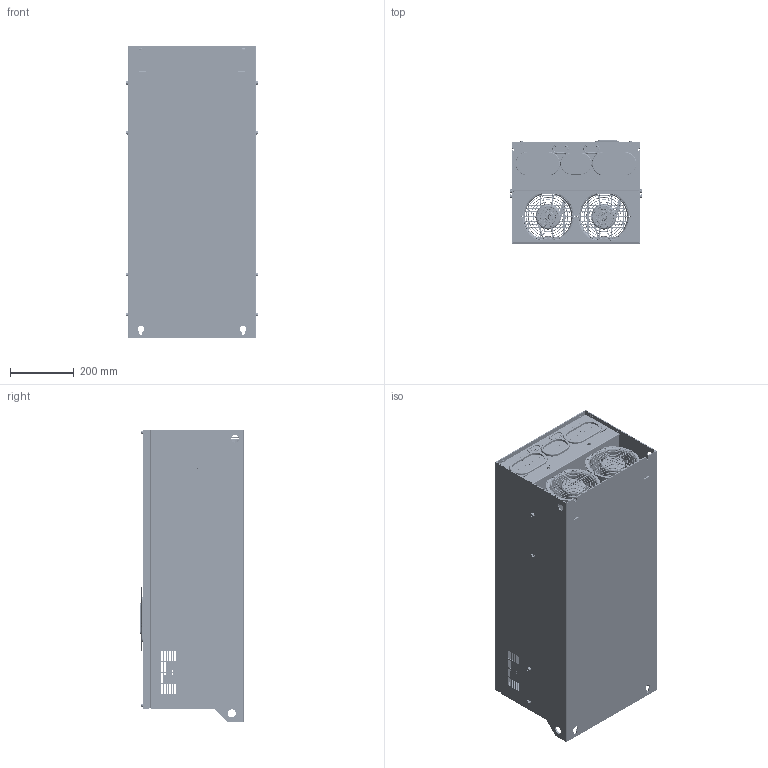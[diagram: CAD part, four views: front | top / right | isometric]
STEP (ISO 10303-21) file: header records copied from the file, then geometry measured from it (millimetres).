
FILE_DESCRIPTION((''),'2;1');
FILE_NAME('000_MVT164ZG-520_ASM','2021-12-13T',('h2718'),(''),'CREO PARAMETRIC BY PTC INC, 2015290','CREO PARAMETRIC BY PTC INC, 2015290','');
FILE_SCHEMA(('AP203_CONFIGURATION_CONTROLLED_3D_DESIGN_OF_MECHANICAL_PARTS_AND_ASSEMBLIES_MIM_LF { 1 0 10303 403 2 1 2 }'));
Products named in the file (26): 20110093-ZP_ASM_5_SW0001; SIT2013AG57; 20310585-LJ_3; 20310583-LJ_2; 20190038-ZP_ASM_4_ASM; 23010022_1; 23030013_2; QJ-ZP_ASM_2_ASM; GBT9074_17-88_M10X30_GB_1; GB97_1-2002_12_GB_A_3; GB93-87_12_GB_3; GB6170-2000_M12_GB1_A_8_2; 21030045_2; 21030044_3; GB9074_13-88_M5X12_GBXNHJ_2; GB9074_13-88_M6X16_GB_1; 20430041-LJ_1; FL-ZP_ASM_4_ASM; 520-KZB-20211209; 520-AJZJ-02-20211209; 20212503_S; 20441163; 001-520-ZUJIAN_ASM; DZ-9_SW0001; 20350021-ZP_ASM_2_SW0001; 000_MVT164ZG-520_ASM
Assembly tree (66 placements, depth 3):
  000_MVT164ZG-520_ASM
    20190038-ZP_ASM_4_ASM
      20110093-ZP_ASM_5_SW0001
      SIT2013AG57
      20310585-LJ_3
      20310583-LJ_2
    QJ-ZP_ASM_2_ASM
      23010022_1  x2
      23030013_2  x2
    FL-ZP_ASM_4_ASM
      GBT9074_17-88_M10X30_GB_1  x2
      GB97_1-2002_12_GB_A_3  x8
      GB93-87_12_GB_3  x8
      GB6170-2000_M12_GB1_A_8_2  x8
      21030045_2  x2
      21030044_3  x4
      GB9074_13-88_M5X12_GBXNHJ_2  x4
      GB9074_13-88_M6X16_GB_1  x10
      20430041-LJ_1  x2
    001-520-ZUJIAN_ASM
      520-KZB-20211209
      520-AJZJ-02-20211209
      20212503_S
      20441163
    DZ-9_SW0001
    20350021-ZP_ASM_2_SW0001
Bounding box: 414.4 x 322.18 x 915.06 mm (x, y, z)
Volume: 4291513.7 mm3; surface area: 4353337.1 mm2
Topology: 101 solids, 119 shells, 12731 faces, 35407 edges, 22994 vertices
Faces by surface type: plane 7327, cylinder 3645, cone 783, bspline 505, torus 366, extrusion 70, sphere 25, revolution 10
Entity records: 578964 total; most frequent: CARTESIAN_POINT 172819, ORIENTED_EDGE 61976, DIRECTION 56211, PRESENTATION_STYLE_ASSIGNMENT 34210, STYLED_ITEM 31711, CURVE_STYLE 31227, EDGE_CURVE 31017, VECTOR 21249
